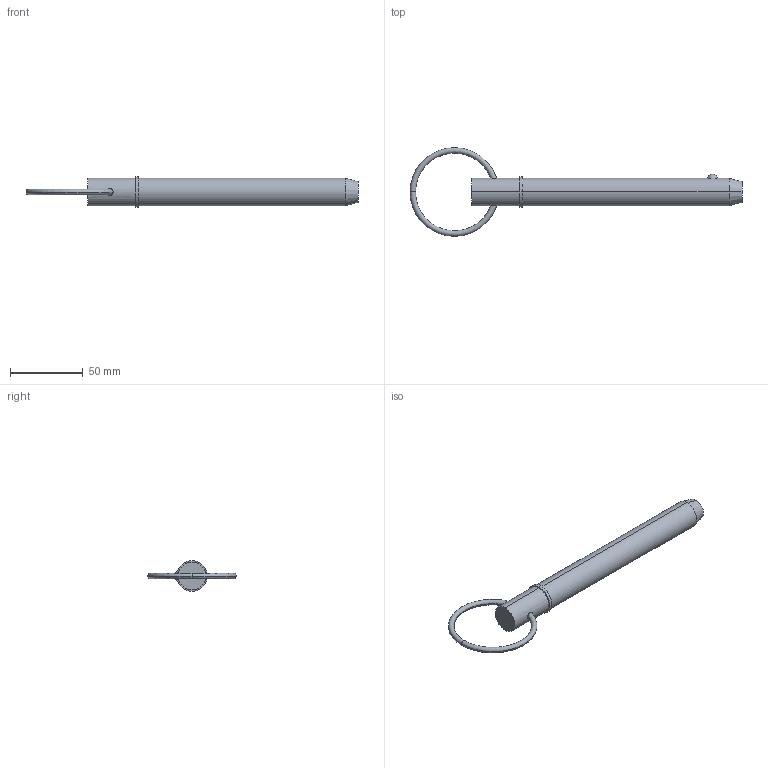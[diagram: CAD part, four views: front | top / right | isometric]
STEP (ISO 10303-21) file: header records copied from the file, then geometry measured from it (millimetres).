
FILE_DESCRIPTION (( 'STEP AP203' ), '1' );
FILE_NAME ('33016.W7550.step', '2024-11-07T11:15:09', ( '' ), ( '' ), 'SwSTEP 2.0', 'SolidWorks 2019', '' );
FILE_SCHEMA (( 'CONFIG_CONTROL_DESIGN' ));
Length unit declared in the file: millimetre
Products named in the file (3): Part1_33016.W7550; 33016.W7550; Part2_33016.W7550
Assembly tree (2 placements, depth 2):
  33016.W7550
    Part1_33016.W7550
    Part2_33016.W7550
Bounding box: 228.2 x 60.96 x 20.95 mm (x, y, z)
Volume: 54243.9 mm3; surface area: 14067.2 mm2
Topology: 2 solids, 2 shells, 22 faces, 43 edges, 26 vertices
Faces by surface type: torus 8, cylinder 6, plane 4, sphere 2, cone 2
Entity records: 1053 total; most frequent: CARTESIAN_POINT 276, DIRECTION 120, ORIENTED_EDGE 86, AXIS2_PLACEMENT_3D 56, EDGE_CURVE 43, CIRCLE 29, EDGE_LOOP 27, VERTEX_POINT 26
